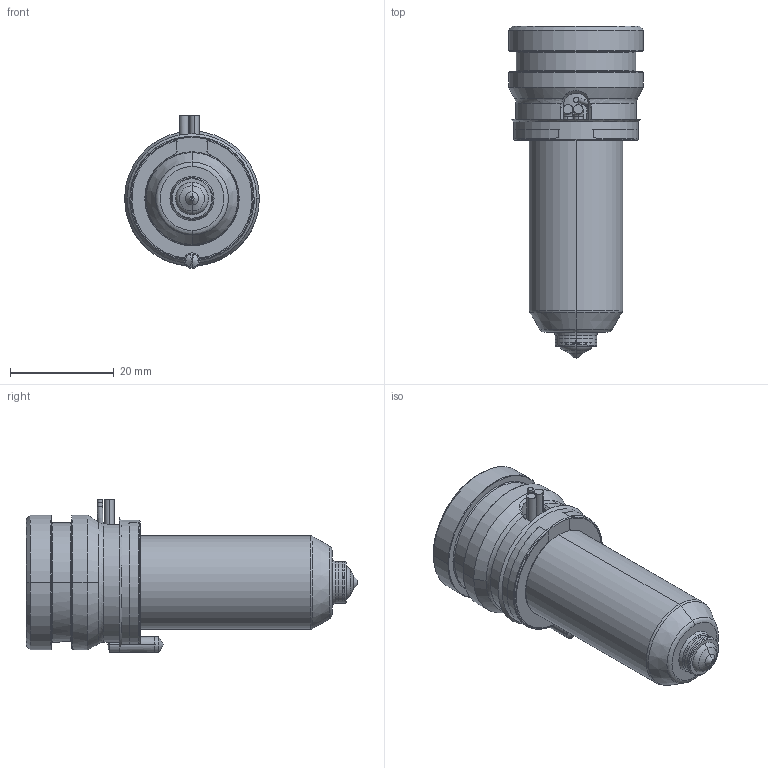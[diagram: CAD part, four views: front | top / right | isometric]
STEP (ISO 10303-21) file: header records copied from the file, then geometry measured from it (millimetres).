
FILE_DESCRIPTION((''),'2;1');
FILE_NAME('TH18046-A-1GLT-PK-JG','2023-12-14T',('umhib'),('Thermoplay S.p.A.'),'PRO/ENGINEER BY PARAMETRIC TECHNOLOGY CORPORATION, 2017170','PRO/ENGINEER BY PARAMETRIC TECHNOLOGY CORPORATION, 2017170','');
FILE_SCHEMA(('CONFIG_CONTROL_DESIGN'));
Length unit declared in the file: millimetre
Products named in the file (1): TH18046-A-1GLT-PK-JG
Bounding box: 26 x 64 x 29.5 mm (x, y, z)
Volume: 15075.8 mm3; surface area: 11217.8 mm2
Topology: 1 solids, 2 shells, 418 faces, 1085 edges, 675 vertices
Faces by surface type: cylinder 162, plane 90, cone 68, torus 62, bspline 24, sphere 10, extrusion 2
Entity records: 18148 total; most frequent: CARTESIAN_POINT 5865, DIRECTION 2189, ORIENTED_EDGE 2146, EDGE_CURVE 1075, AXIS2_PLACEMENT_3D 887, VERTEX_POINT 675, CIRCLE 494, EDGE_LOOP 443
